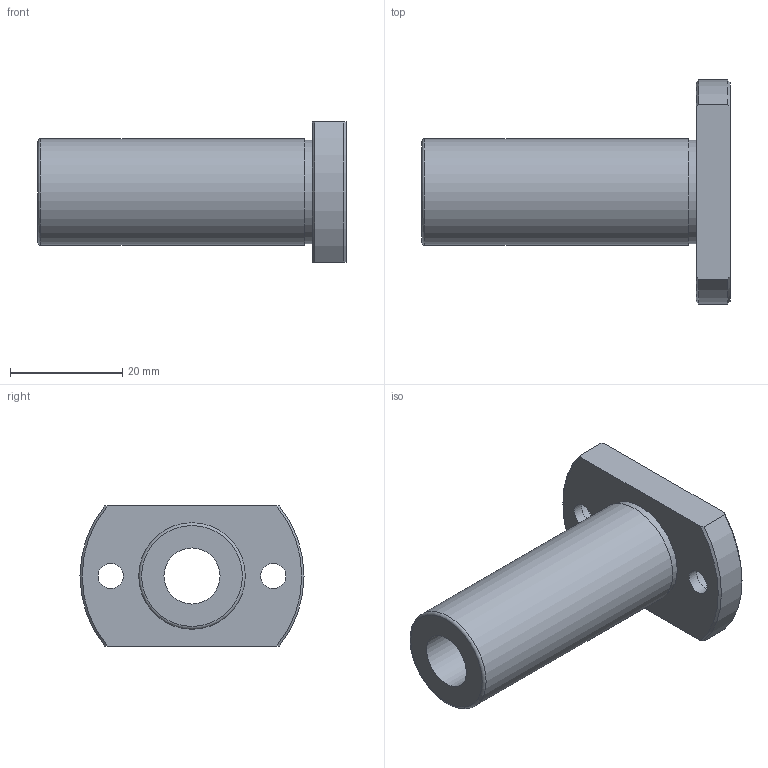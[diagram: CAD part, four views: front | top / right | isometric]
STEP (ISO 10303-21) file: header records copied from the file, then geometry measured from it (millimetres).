
FILE_DESCRIPTION(('STEP AP203'),'1');
FILE_NAME('//192.168.1.1/share/s-4 技術開発/s-4-4_CAD/s-4-4-3_見直し済み/002 修正済み/NFEO-VL(済)/NFEO-VL_TOP/NFEO-10VLUU.step','2022-03-08T01:34:04',(' '),(' '),'Spatial InterOp 3D',' ',' ');
FILE_SCHEMA(('CONFIG_CONTROL_DESIGN'));
Length unit declared in the file: millimetre
Products named in the file (1): 1
Bounding box: 55 x 40 x 25 mm (x, y, z)
Volume: 14700.6 mm3; surface area: 7226.8 mm2
Topology: 1 solids, 1 shells, 22 faces, 49 edges, 33 vertices
Faces by surface type: cylinder 9, plane 8, cone 4, torus 1
Full cylindrical faces by diameter (mm): 4.5 x2, 7.5 x2, 10 x1, 18.5 x1, 19 x1
Entity records: 630 total; most frequent: CARTESIAN_POINT 117, DIRECTION 100, ORIENTED_EDGE 78, AXIS2_PLACEMENT_3D 46, EDGE_LOOP 40, EDGE_CURVE 39, VERTEX_POINT 31, FACE_OUTER_BOUND 30
